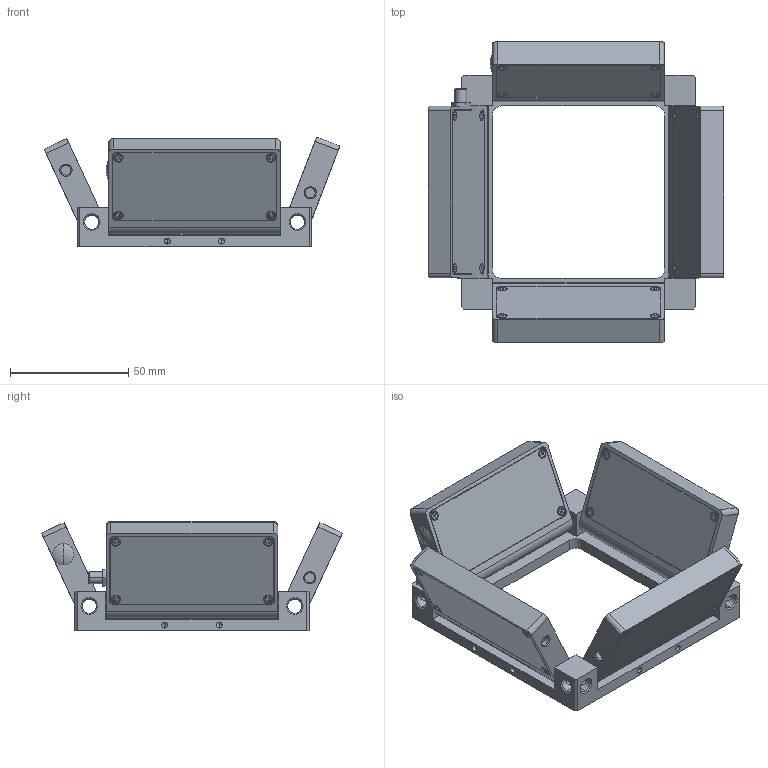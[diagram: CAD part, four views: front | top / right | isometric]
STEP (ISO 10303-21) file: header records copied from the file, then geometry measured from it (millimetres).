
FILE_DESCRIPTION (( 'STEP AP214' ), '1' );
FILE_NAME ('SQUARE LIGHT.STEP', '2012-08-13T07:42:19', ( ' ' ), ( '' ), 'SwSTEP 2.0', 'SolidWorks 2009', '' );
FILE_SCHEMA (( 'AUTOMOTIVE_DESIGN' ));
Length unit declared in the file: millimetre
Products named in the file (1): SQUARE LIGHT
Bounding box: 125.02 x 127.18 x 46.46 mm (x, y, z)
Volume: 95825 mm3; surface area: 88067.9 mm2
Topology: 50 solids, 50 shells, 1161 faces, 2754 edges, 1723 vertices
Faces by surface type: plane 495, cylinder 384, cone 280, torus 2
Entity records: 46250 total; most frequent: DIRECTION 6056, CARTESIAN_POINT 5669, ORIENTED_EDGE 5472, EDGE_CURVE 2736, AXIS2_PLACEMENT_3D 2174, VERTEX_POINT 1723, VECTOR 1708, LINE 1708
